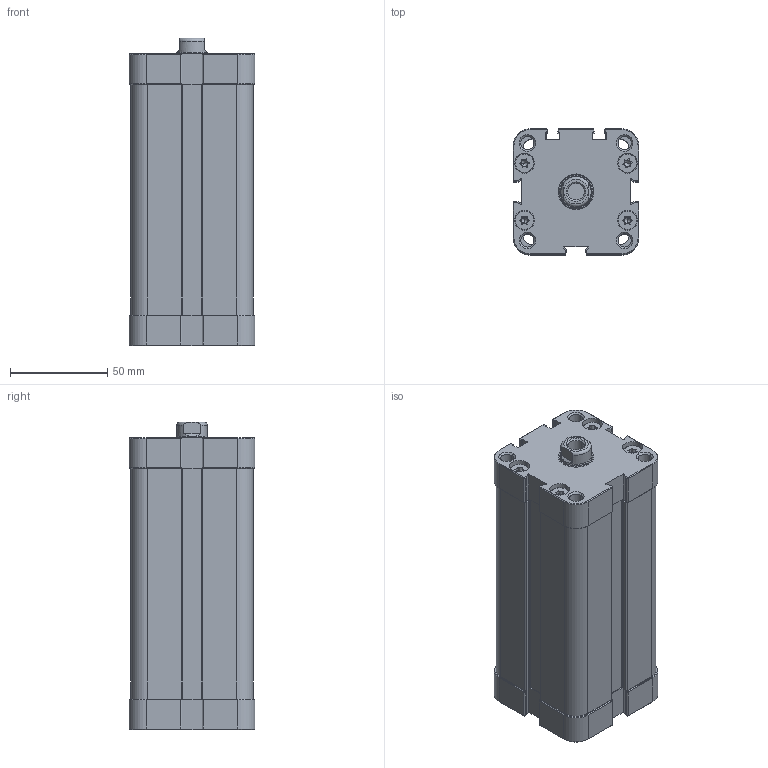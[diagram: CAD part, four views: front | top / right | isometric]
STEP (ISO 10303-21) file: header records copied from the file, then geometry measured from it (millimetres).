
FILE_DESCRIPTION (( 'STEP AP214' ), '1' );
FILE_NAME ('25_11635.STEP', '2017-01-04T11:22:51', ( '' ), ( '' ), 'SwSTEP 2.0', 'SolidWorks 2016', '' );
FILE_SCHEMA (( 'AUTOMOTIVE_DESIGN' ));
Length unit declared in the file: millimetre
Products named in the file (1): 25_11635
Bounding box: 64.6 x 64.6 x 158 mm (x, y, z)
Volume: 517422.8 mm3; surface area: 100188.2 mm2
Topology: 13 solids, 13 shells, 674 faces, 1627 edges, 992 vertices
Faces by surface type: plane 297, cylinder 209, cone 108, torus 44, bspline 16
Entity records: 27511 total; most frequent: CARTESIAN_POINT 3998, DIRECTION 3481, ORIENTED_EDGE 3222, EDGE_CURVE 1611, AXIS2_PLACEMENT_3D 1303, VERTEX_POINT 992, LINE 875, VECTOR 875
